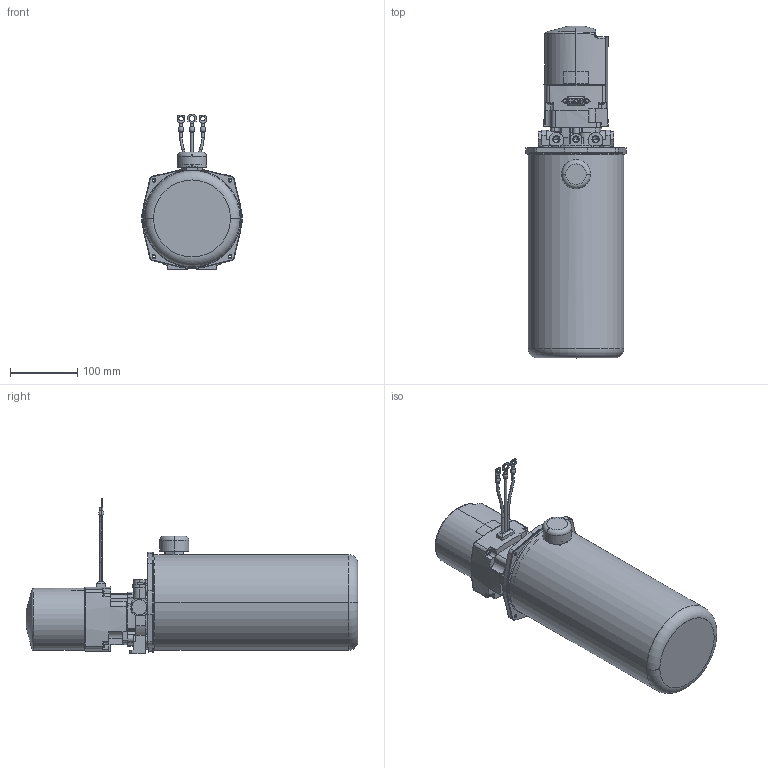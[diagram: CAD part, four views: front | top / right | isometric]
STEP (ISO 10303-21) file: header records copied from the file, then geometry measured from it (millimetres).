
FILE_DESCRIPTION((''),'2;1');
FILE_NAME('108-AM-BI-I_ASM','2008-12-15T',('JP10250a'),('OILDYNE'),'PRO/ENGINEER BY PARAMETRIC TECHNOLOGY CORPORATION, 2005380','PRO/ENGINEER BY PARAMETRIC TECHNOLOGY CORPORATION, 2005380','');
FILE_SCHEMA(('CONFIG_CONTROL_DESIGN'));
Length unit declared in the file: inch
Products named in the file (11): 108_ADAPTER_BLANK; 361182; 410728; 773764_ASM; 366553; 361512; 410586-2; 410586-1; 410586_ASM; 413767; 108-AM-BI-I_ASM
Assembly tree (11 placements, depth 3):
  108-AM-BI-I_ASM
    108_ADAPTER_BLANK
    773764_ASM  x2
      361182
      410728
    366553
    361512
    410586_ASM
      410586-2
      410586-1
    413767
Bounding box: 148.8 x 493.64 x 231.13 mm (x, y, z)
Volume: 1558107.9 mm3; surface area: 482471.1 mm2
Topology: 10 solids, 10 shells, 1188 faces, 3096 edges, 1966 vertices
Faces by surface type: plane 517, cylinder 416, cone 110, torus 101, bspline 38, sphere 6
Entity records: 39093 total; most frequent: CARTESIAN_POINT 9975, DIRECTION 6198, ORIENTED_EDGE 6036, EDGE_CURVE 3018, AXIS2_PLACEMENT_3D 2326, VERTEX_POINT 1930, VECTOR 1546, LINE 1546
